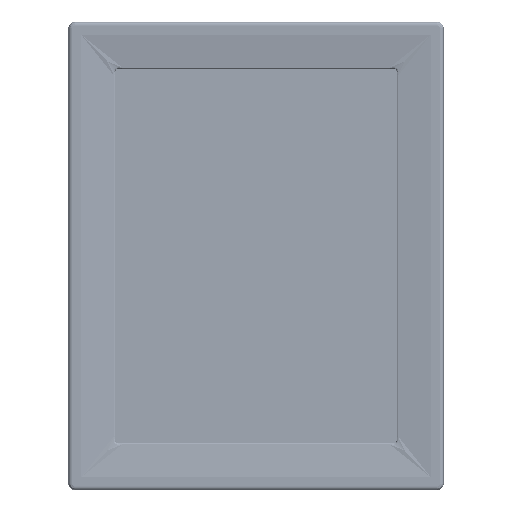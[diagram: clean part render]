
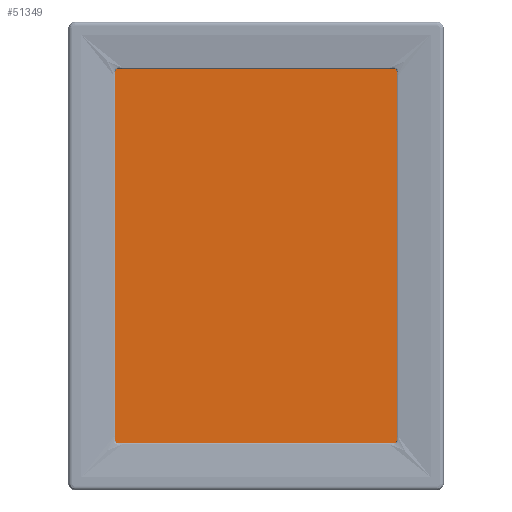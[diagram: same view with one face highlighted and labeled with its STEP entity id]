
A CAD part, front view. The second image highlights one B-rep face of the part: STEP entity #51349.
In plain terms, the highlighted planar face has unit normal (0, -1, 0).
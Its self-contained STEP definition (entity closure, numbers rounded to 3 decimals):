
#51234=DIRECTION('',(0.,0.,1.));
#51235=VECTOR('',#51234,333.6);
#51236=CARTESIAN_POINT('',(-128.75,-15.7,-166.8));
#51237=LINE('',#51236,#51235);
#51238=DIRECTION('',(1.,0.,0.));
#51239=VECTOR('',#51238,257.5);
#51240=CARTESIAN_POINT('',(-128.75,-15.7,166.8));
#51241=LINE('',#51240,#51239);
#51242=DIRECTION('',(0.,0.,-1.));
#51243=VECTOR('',#51242,333.6);
#51244=CARTESIAN_POINT('',(128.75,-15.7,166.8));
#51245=LINE('',#51244,#51243);
#51246=DIRECTION('',(-1.,0.,0.));
#51247=VECTOR('',#51246,257.5);
#51248=CARTESIAN_POINT('',(128.75,-15.7,-166.8));
#51249=LINE('',#51248,#51247);
#51258=CARTESIAN_POINT('',(-128.75,-15.7,166.8));
#51259=VERTEX_POINT('',#51258);
#51260=CARTESIAN_POINT('',(128.75,-15.7,166.8));
#51261=VERTEX_POINT('',#51260);
#51262=CARTESIAN_POINT('',(128.75,-15.7,-166.8));
#51263=VERTEX_POINT('',#51262);
#51264=CARTESIAN_POINT('',(-128.75,-15.7,-166.8));
#51265=VERTEX_POINT('',#51264);
#51338=CARTESIAN_POINT('',(0.,-15.7,0.));
#51339=DIRECTION('',(0.,1.,0.));
#51340=DIRECTION('',(0.,0.,1.));
#51341=AXIS2_PLACEMENT_3D('',#51338,#51339,#51340);
#51342=PLANE('',#51341);
#51343=ORIENTED_EDGE('',*,*,#51292,.T.);
#51344=ORIENTED_EDGE('',*,*,#51333,.T.);
#51345=ORIENTED_EDGE('',*,*,#51320,.T.);
#51346=ORIENTED_EDGE('',*,*,#51306,.T.);
#51347=EDGE_LOOP('',(#51343,#51344,#51345,#51346));
#51348=FACE_OUTER_BOUND('',#51347,.F.);
#51349=ADVANCED_FACE('',(#51348),#51342,.F.);
#51292=EDGE_CURVE('',#51265,#51259,#51237,.T.);
#51306=EDGE_CURVE('',#51263,#51265,#51249,.T.);
#51320=EDGE_CURVE('',#51261,#51263,#51245,.T.);
#51333=EDGE_CURVE('',#51259,#51261,#51241,.T.);
